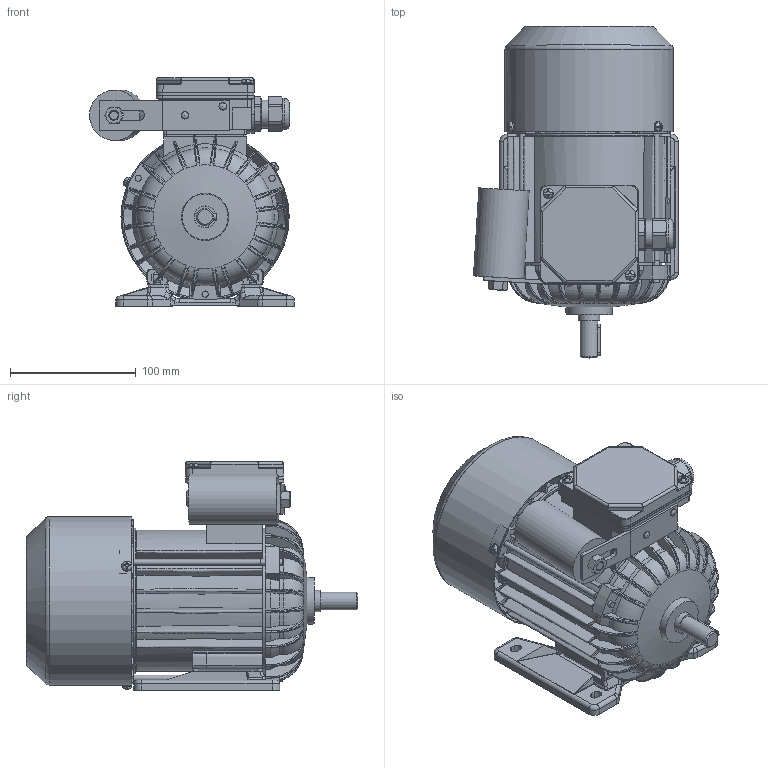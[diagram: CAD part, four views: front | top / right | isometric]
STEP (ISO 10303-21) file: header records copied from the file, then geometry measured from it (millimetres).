
FILE_DESCRIPTION( ( 'Unknown' ), '1' );
FILE_NAME( 'G:/Poczta Tk-1/STP/w.m.71/SEh71/SEh71-.C.stp', 'Unknown', ( 'K. Szlosek' ), ( 'BESEL S.A.' ), 'PSStep 17.0.49', 'Unknown', ' ' );
FILE_SCHEMA( ( 'AUTOMOTIVE_DESIGN { 1 0 10303 214 1 1 1 1 }' ) );
Length unit declared in the file: millimetre
Products named in the file (35): skrznka zaciskowa jednofazowa ; K4-2820 Uszczelka nr 2 Sh71,80; K2-1131 Podstawa skrzynki zaciskowej jednofazowa; K4-2999 Uchwyt kondensatora; Nit 4x12 po skróceniu; nakrętka M8; K4-0898 Tulejka uszczelniająca; Dławnica M20x1,5; K2-0860 Pokrywka skrzynki zaciskowej; Assem1; K3-2975 Osłona przewietrznika Sh71-.B,C; K3-6469 Tarcza łożyskowa P S(E,M)h71-B,C; K4-2320 Uszczelka nr 1 Sh71,80; K2-1933 Tarcza łożyskowa N S(E,M)h71-; Wkręt samogwintujący M4x8; K1-1194 Kadłub z zamkami Sh71-.C; K1-0448 Łapa Sh71-.. ; Wpust A5x5x25; Nitokołek A 2x6; k3-4489 Wał SKh71 x-2C1; Wkręt samogwintujący M4x16; Kondensator zb 11-16uF Comar; K3-3984 Przewietrznik Sh71; Łożysko 6203; Śruba ściągająca E_M5x130; Tabliczka znamionowa 32x44
Assembly tree (51 placements, depth 3):
  Assem1
    K3-2975 Osłona przewietrznika Sh71-.B,C
    K3-6469 Tarcza łożyskowa P S(E,M)h71-B,C
    K4-2320 Uszczelka nr 1 Sh71,80
    K2-1933 Tarcza łożyskowa N S(E,M)h71-
    Wkręt samogwintujący M4x8  x3
    K1-1194 Kadłub z zamkami Sh71-.C
    K1-0448 Łapa Sh71-.. 
    Wpust A5x5x25
    Nitokołek A 2x6  x2
    k3-4489 Wał SKh71 x-2C1
    Wkręt samogwintujący M4x16  x2
    Kondensator zb 11-16uF Comar
    K3-3984 Przewietrznik Sh71
    Łożysko 6203  x2
    Łożysko 6203  x2
    Łożysko 6203  x2
    Łożysko 6203  x2
    Łożysko 6203  x2
    Łożysko 6203  x2
    Łożysko 6203  x2
    Łożysko 6203  x2
    Łożysko 6203  x2
    Łożysko 6203  x2
    Śruba ściągająca E_M5x130  x3
    Tabliczka znamionowa 32x44
    skrznka zaciskowa jednofazowa 
      K4-2820 Uszczelka nr 2 Sh71,80
      K2-1131 Podstawa skrzynki zaciskowej jednofazowa
      K4-2999 Uchwyt kondensatora
      Nit 4x12 po skróceniu  x2
      nakrętka M8
      K4-0898 Tulejka uszczelniająca
      Dławnica M20x1,5
      K2-0860 Pokrywka skrzynki zaciskowej
Bounding box: 162.77 x 263.5 x 181.5 mm (x, y, z)
Volume: 775102.8 mm3; surface area: 476214.4 mm2
Topology: 50 solids, 66 shells, 3100 faces, 8304 edges, 5240 vertices
Faces by surface type: plane 1130, cylinder 822, bspline 614, torus 278, cone 206, sphere 50
Full cylindrical faces by diameter (mm): 2 x2, 2.4 x2, 3 x1, 3.7 x7, 3.8 x4, 4 x7, 4.2 x3, 4.3 x2, 4.5 x3, 4.6 x3, 4.8 x4, 5 x7, 5.5 x3, 5.8 x4, 6 x2, 6.5 x1, 6.647 x1, 7 x1, 8 x10, 10 x2, 14 x1, 15.9 x1, 16.1 x1, 16.5 x1, 17 x4, 17.4 x2, 18.376 x1, 18.38 x1, 20 x1, 22 x2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
Entity records: 205733 total; most frequent: CARTESIAN_POINT 114124, ORIENTED_EDGE 15032, DIRECTION 12769, EDGE_CURVE 7516, AXIS2_PLACEMENT_3D 4947, VERTEX_POINT 4899, EDGE_LOOP 3357, FACE_OUTER_BOUND 3041
